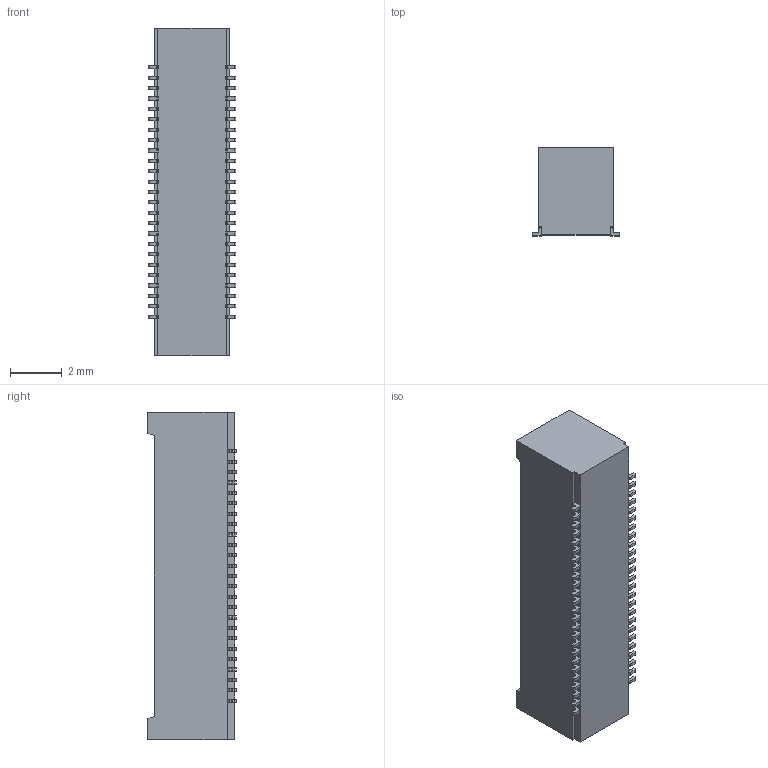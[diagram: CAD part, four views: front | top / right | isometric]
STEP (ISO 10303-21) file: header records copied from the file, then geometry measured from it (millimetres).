
FILE_DESCRIPTION (( 'STEP AP203' ), '1' );
FILE_NAME ('HC-PBB40C-50DS-0.4V-3.4-06 (0.4 邧羞 泂え 譫釱 BTB-HCTL).STEP', '2026-01-23T10:14:53', ( '' ), ( '' ), 'SwSTEP 2.0', 'SolidWorks 2025', '' );
FILE_SCHEMA (( 'CONFIG_CONTROL_DESIGN' ));
Length unit declared in the file: millimetre
Products named in the file (1): HC-PBB40C-50DS-0.4V-3.4-06 (0.4 双槽 贴片 母座 BTB-HCTL)
Bounding box: 3.38 x 3.4 x 12.6 mm (x, y, z)
Volume: 98.6 mm3; surface area: 245.6 mm2
Topology: 1 solids, 1 shells, 1080 faces, 3057 edges, 2030 vertices
Faces by surface type: plane 755, cylinder 325
Entity records: 34936 total; most frequent: CARTESIAN_POINT 6168, ORIENTED_EDGE 6114, DIRECTION 5869, EDGE_CURVE 3057, LINE 2407, VECTOR 2407, VERTEX_POINT 2030, AXIS2_PLACEMENT_3D 1731
